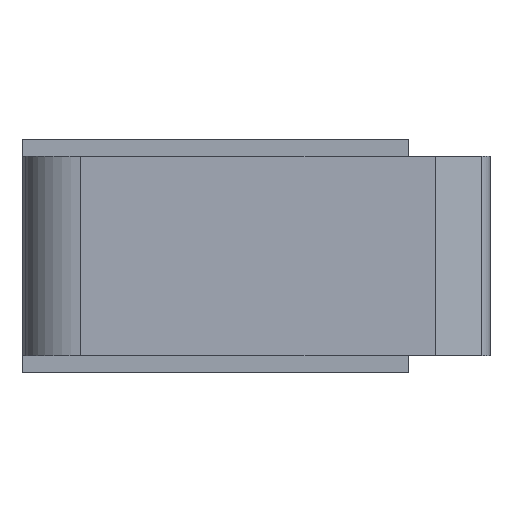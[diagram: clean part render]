
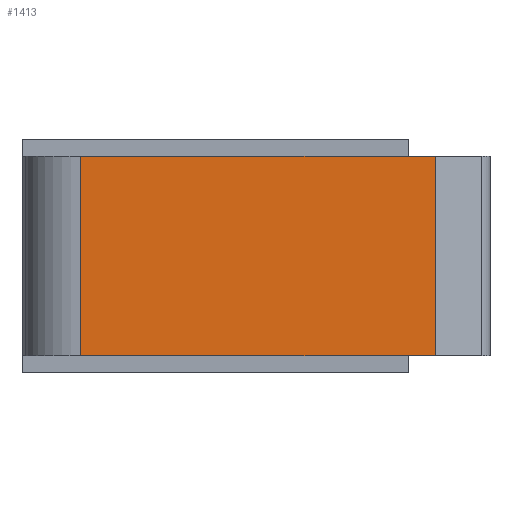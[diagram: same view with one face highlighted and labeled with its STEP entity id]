
A CAD part, front view. The second image highlights one B-rep face of the part: STEP entity #1413.
In plain terms, the highlighted planar face has unit normal (0.009, -1, 0) as drawn and (-0.009, 1, 0) by its records, which use the part's own axes.
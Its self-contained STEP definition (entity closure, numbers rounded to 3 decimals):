
#97 = FACE_OUTER_BOUND ( 'NONE', #1869, .T. ) ;
#120 = CARTESIAN_POINT ( 'NONE',  ( 21.878, 7.199, 24.6 ) ) ;
#244 = ORIENTED_EDGE ( 'NONE', *, *, #1290, .F. ) ;
#276 = VECTOR ( 'NONE', #1381, 1000. ) ;
#397 = EDGE_CURVE ( 'NONE', #1220, #2129, #1787, .T. ) ;
#446 = LINE ( 'NONE', #120, #1442 ) ;
#530 = EDGE_CURVE ( 'NONE', #1116, #2301, #2572, .T. ) ;
#609 = EDGE_CURVE ( 'NONE', #2301, #1220, #2320, .T. ) ;
#665 = ORIENTED_EDGE ( 'NONE', *, *, #397, .F. ) ;
#810 = CARTESIAN_POINT ( 'NONE',  ( 21.878, 7.199, 24.6 ) ) ;
#834 = DIRECTION ( 'NONE',  ( -1., -0.009, 0. ) ) ;
#934 = CARTESIAN_POINT ( 'NONE',  ( 21.878, 7.199, 0. ) ) ;
#1116 = VERTEX_POINT ( 'NONE', #2100 ) ;
#1125 = ORIENTED_EDGE ( 'NONE', *, *, #530, .F. ) ;
#1220 = VERTEX_POINT ( 'NONE', #1336 ) ;
#1266 = ORIENTED_EDGE ( 'NONE', *, *, #609, .F. ) ;
#1290 = EDGE_CURVE ( 'NONE', #2129, #1116, #446, .T. ) ;
#1336 = CARTESIAN_POINT ( 'NONE',  ( -21.754, 6.818, 0. ) ) ;
#1381 = DIRECTION ( 'NONE',  ( 0., 0., -1. ) ) ;
#1391 = PLANE ( 'NONE',  #2084 ) ;
#1413 = ADVANCED_FACE ( 'NONE', ( #97 ), #1391, .F. ) ;
#1442 = VECTOR ( 'NONE', #2586, 1000. ) ;
#1481 = VECTOR ( 'NONE', #834, 1000. ) ;
#1592 = DIRECTION ( 'NONE',  ( 1., 0.009, 0. ) ) ;
#1723 = VECTOR ( 'NONE', #2063, 1000. ) ;
#1737 = CARTESIAN_POINT ( 'NONE',  ( -21.754, 6.818, 24.6 ) ) ;
#1787 = LINE ( 'NONE', #2236, #1723 ) ;
#1869 = EDGE_LOOP ( 'NONE', ( #1125, #244, #665, #1266 ) ) ;
#1987 = DIRECTION ( 'NONE',  ( 0.009, -1., 0. ) ) ;
#2063 = DIRECTION ( 'NONE',  ( 1., 0.009, 0. ) ) ;
#2084 = AXIS2_PLACEMENT_3D ( 'NONE', #2424, #1987, #1592 ) ;
#2100 = CARTESIAN_POINT ( 'NONE',  ( 21.878, 7.199, 24.6 ) ) ;
#2129 = VERTEX_POINT ( 'NONE', #934 ) ;
#2236 = CARTESIAN_POINT ( 'NONE',  ( 21.878, 7.199, 0. ) ) ;
#2301 = VERTEX_POINT ( 'NONE', #1737 ) ;
#2320 = LINE ( 'NONE', #2411, #276 ) ;
#2411 = CARTESIAN_POINT ( 'NONE',  ( -21.754, 6.818, 24.6 ) ) ;
#2424 = CARTESIAN_POINT ( 'NONE',  ( 21.878, 7.199, 24.6 ) ) ;
#2572 = LINE ( 'NONE', #810, #1481 ) ;
#2586 = DIRECTION ( 'NONE',  ( 0., 0., 1. ) ) ;
